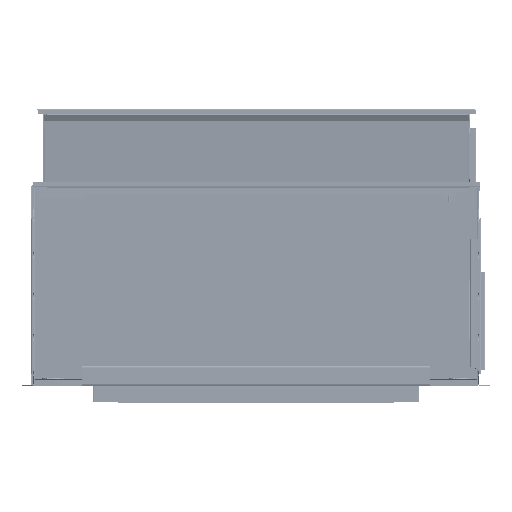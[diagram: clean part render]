
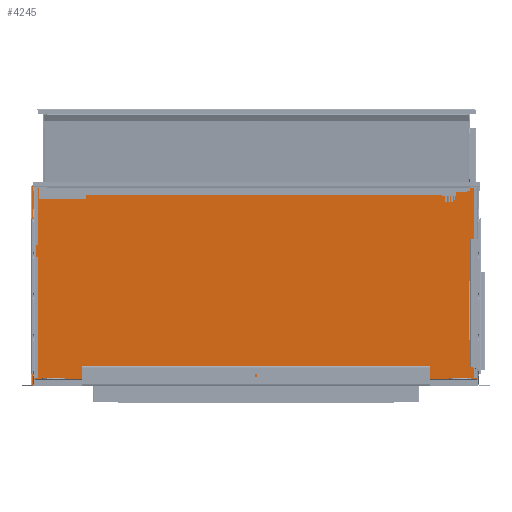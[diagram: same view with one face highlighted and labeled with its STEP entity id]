
A CAD part, front view. The second image highlights one B-rep face of the part: STEP entity #4245.
In plain terms, the highlighted planar face has unit normal (0, -0.999, -0.035).
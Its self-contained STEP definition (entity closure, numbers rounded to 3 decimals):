
#3104 = ORIENTED_EDGE ( 'NONE', *, *, #258523, .F. ) ;
#3184 = CARTESIAN_POINT ( 'NONE',  ( 43.852, 69.715, -24.453 ) ) ;
#4245 = ADVANCED_FACE ( 'NONE', ( #214098 ), #335815, .F. ) ;
#11036 = DIRECTION ( 'NONE',  ( 0., 0.035, -0.999 ) ) ;
#11952 = DIRECTION ( 'NONE',  ( -1., 0., 0. ) ) ;
#17744 = CARTESIAN_POINT ( 'NONE',  ( 43.853, 69.715, -24.452 ) ) ;
#18400 = ORIENTED_EDGE ( 'NONE', *, *, #335935, .F. ) ;
#19275 = AXIS2_PLACEMENT_3D ( 'NONE', #108840, #147013, #411991 ) ;
#20188 = CARTESIAN_POINT ( 'NONE',  ( 4.308, 69.715, -24.452 ) ) ;
#38266 = CARTESIAN_POINT ( 'NONE',  ( 4.308, 69.715, -24.452 ) ) ;
#46438 = VECTOR ( 'NONE', #354814, 39.37 ) ;
#47720 = CARTESIAN_POINT ( 'NONE',  ( 43.853, 69.124, -7.5 ) ) ;
#50137 = EDGE_CURVE ( 'NONE', #188353, #86445, #413303, .T. ) ;
#51565 = ORIENTED_EDGE ( 'NONE', *, *, #456784, .F. ) ;
#51644 = CARTESIAN_POINT ( 'NONE',  ( 43.853, 69.717, -24.502 ) ) ;
#61451 = DIRECTION ( 'NONE',  ( -1., 0., 0. ) ) ;
#64599 = CARTESIAN_POINT ( 'NONE',  ( 5.733, 69.715, -24.453 ) ) ;
#71386 = VECTOR ( 'NONE', #446387, 39.37 ) ;
#75649 = EDGE_CURVE ( 'NONE', #109602, #225744, #486225, .T. ) ;
#79738 = ORIENTED_EDGE ( 'NONE', *, *, #361984, .F. ) ;
#81496 = VERTEX_POINT ( 'NONE', #47720 ) ;
#86445 = VERTEX_POINT ( 'NONE', #392388 ) ;
#108840 = CARTESIAN_POINT ( 'NONE',  ( 4.308, 69.717, -24.502 ) ) ;
#109602 = VERTEX_POINT ( 'NONE', #465833 ) ;
#110514 = CARTESIAN_POINT ( 'NONE',  ( 43.852, 69.123, -7.468 ) ) ;
#133399 = LINE ( 'NONE', #223005, #435612 ) ;
#134099 = VECTOR ( 'NONE', #453524, 39.37 ) ;
#135750 = DIRECTION ( 'NONE',  ( 1., 0., 0. ) ) ;
#137658 = CARTESIAN_POINT ( 'NONE',  ( 5.733, 69.123, -7.468 ) ) ;
#141584 = ORIENTED_EDGE ( 'NONE', *, *, #168222, .F. ) ;
#141714 = CARTESIAN_POINT ( 'NONE',  ( 43.852, 69.715, -24.452 ) ) ;
#147013 = DIRECTION ( 'NONE',  ( 0., 0.999, 0.035 ) ) ;
#156726 = ORIENTED_EDGE ( 'NONE', *, *, #395400, .F. ) ;
#168222 = EDGE_CURVE ( 'NONE', #225744, #284416, #218786, .T. ) ;
#182750 = VERTEX_POINT ( 'NONE', #110514 ) ;
#188353 = VERTEX_POINT ( 'NONE', #476445 ) ;
#200638 = CARTESIAN_POINT ( 'NONE',  ( 4.308, 69.715, -24.453 ) ) ;
#209139 = LINE ( 'NONE', #464914, #398949 ) ;
#209586 = CARTESIAN_POINT ( 'NONE',  ( 5.733, 69.717, -24.502 ) ) ;
#212047 = LINE ( 'NONE', #38266, #413660 ) ;
#214098 = FACE_OUTER_BOUND ( 'NONE', #446621, .T. ) ;
#217711 = VERTEX_POINT ( 'NONE', #17744 ) ;
#218786 = LINE ( 'NONE', #209586, #307595 ) ;
#220470 = EDGE_CURVE ( 'NONE', #86445, #109602, #133399, .T. ) ;
#221411 = ORIENTED_EDGE ( 'NONE', *, *, #281248, .F. ) ;
#223005 = CARTESIAN_POINT ( 'NONE',  ( 5.732, 69.717, -24.502 ) ) ;
#223502 = VECTOR ( 'NONE', #61451, 39.37 ) ;
#225744 = VERTEX_POINT ( 'NONE', #234530 ) ;
#234530 = CARTESIAN_POINT ( 'NONE',  ( 5.733, 69.124, -7.5 ) ) ;
#244583 = ORIENTED_EDGE ( 'NONE', *, *, #220470, .F. ) ;
#247577 = DIRECTION ( 'NONE',  ( 0., 0.035, -0.999 ) ) ;
#250719 = VECTOR ( 'NONE', #247577, 39.37 ) ;
#255917 = VERTEX_POINT ( 'NONE', #64599 ) ;
#258523 = EDGE_CURVE ( 'NONE', #182750, #488048, #351676, .T. ) ;
#262619 = LINE ( 'NONE', #474621, #452482 ) ;
#263410 = VERTEX_POINT ( 'NONE', #3184 ) ;
#272735 = LINE ( 'NONE', #484496, #71386 ) ;
#281248 = EDGE_CURVE ( 'NONE', #284416, #182750, #262619, .T. ) ;
#283045 = CARTESIAN_POINT ( 'NONE',  ( 43.852, 69.124, -7.5 ) ) ;
#284416 = VERTEX_POINT ( 'NONE', #137658 ) ;
#284533 = ORIENTED_EDGE ( 'NONE', *, *, #50137, .F. ) ;
#291162 = ORIENTED_EDGE ( 'NONE', *, *, #75649, .F. ) ;
#307595 = VECTOR ( 'NONE', #474747, 39.37 ) ;
#323793 = DIRECTION ( 'NONE',  ( 1., 0., 0. ) ) ;
#323859 = CARTESIAN_POINT ( 'NONE',  ( 43.852, 69.717, -24.502 ) ) ;
#335564 = LINE ( 'NONE', #451866, #134099 ) ;
#335815 = PLANE ( 'NONE',  #19275 ) ;
#335935 = EDGE_CURVE ( 'NONE', #488048, #81496, #335564, .T. ) ;
#345580 = VERTEX_POINT ( 'NONE', #141714 ) ;
#351676 = LINE ( 'NONE', #323859, #250719 ) ;
#354814 = DIRECTION ( 'NONE',  ( 0., 0.035, -0.999 ) ) ;
#361984 = EDGE_CURVE ( 'NONE', #217711, #345580, #212047, .T. ) ;
#362644 = CARTESIAN_POINT ( 'NONE',  ( 4.308, 69.124, -7.5 ) ) ;
#364061 = VECTOR ( 'NONE', #11952, 39.37 ) ;
#373022 = DIRECTION ( 'NONE',  ( -1., 0., 0. ) ) ;
#385525 = VECTOR ( 'NONE', #135750, 39.37 ) ;
#392388 = CARTESIAN_POINT ( 'NONE',  ( 5.732, 69.715, -24.452 ) ) ;
#395400 = EDGE_CURVE ( 'NONE', #255917, #188353, #272735, .T. ) ;
#395614 = ORIENTED_EDGE ( 'NONE', *, *, #446948, .F. ) ;
#398949 = VECTOR ( 'NONE', #11036, 39.37 ) ;
#411991 = DIRECTION ( 'NONE',  ( 0., -0.035, 0.999 ) ) ;
#413303 = LINE ( 'NONE', #20188, #223502 ) ;
#413660 = VECTOR ( 'NONE', #373022, 39.37 ) ;
#419219 = EDGE_CURVE ( 'NONE', #345580, #263410, #209139, .T. ) ;
#435612 = VECTOR ( 'NONE', #488090, 39.37 ) ;
#446387 = DIRECTION ( 'NONE',  ( 0., -0.035, 0.999 ) ) ;
#446621 = EDGE_LOOP ( 'NONE', ( #455331, #79738, #51565, #18400, #3104, #221411, #141584, #291162, #244583, #284533, #156726, #395614 ) ) ;
#446948 = EDGE_CURVE ( 'NONE', #263410, #255917, #464760, .T. ) ;
#449542 = LINE ( 'NONE', #51644, #46438 ) ;
#451866 = CARTESIAN_POINT ( 'NONE',  ( 4.308, 69.124, -7.5 ) ) ;
#452482 = VECTOR ( 'NONE', #323793, 39.37 ) ;
#453524 = DIRECTION ( 'NONE',  ( 1., 0., 0. ) ) ;
#455331 = ORIENTED_EDGE ( 'NONE', *, *, #419219, .F. ) ;
#456784 = EDGE_CURVE ( 'NONE', #81496, #217711, #449542, .T. ) ;
#464760 = LINE ( 'NONE', #200638, #364061 ) ;
#464914 = CARTESIAN_POINT ( 'NONE',  ( 43.852, 69.717, -24.502 ) ) ;
#465833 = CARTESIAN_POINT ( 'NONE',  ( 5.732, 69.124, -7.5 ) ) ;
#474621 = CARTESIAN_POINT ( 'NONE',  ( 4.308, 69.123, -7.468 ) ) ;
#474747 = DIRECTION ( 'NONE',  ( 0., -0.035, 0.999 ) ) ;
#476445 = CARTESIAN_POINT ( 'NONE',  ( 5.733, 69.715, -24.452 ) ) ;
#484496 = CARTESIAN_POINT ( 'NONE',  ( 5.733, 69.717, -24.502 ) ) ;
#486225 = LINE ( 'NONE', #362644, #385525 ) ;
#488048 = VERTEX_POINT ( 'NONE', #283045 ) ;
#488090 = DIRECTION ( 'NONE',  ( 0., -0.035, 0.999 ) ) ;
